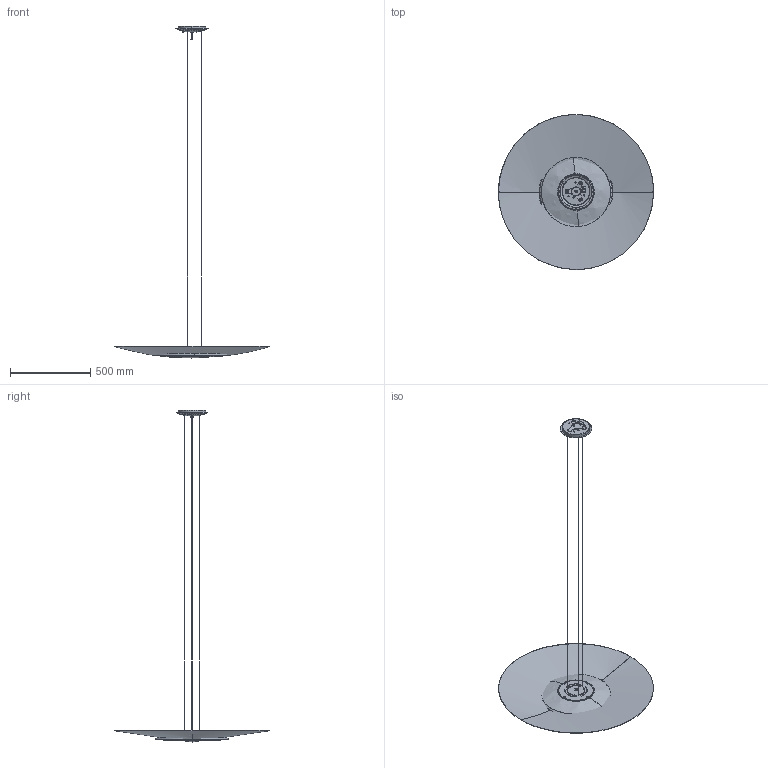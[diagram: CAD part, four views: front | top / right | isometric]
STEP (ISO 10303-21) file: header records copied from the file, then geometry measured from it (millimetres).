
FILE_DESCRIPTION(/* description */ (''),/* implementation_level */ '2;1');
FILE_NAME(/* name */ 'L093__~2',/* time_stamp */ '2024-07-09T16:09:32+02:00',/* author */ (''),/* organization */ (''),/* preprocessor_version */ 'ST-DEVELOPER v16.5',/* originating_system */ '',/* authorisation */ '');
FILE_SCHEMA (('AUTOMOTIVE_DESIGN'));
Length unit declared in the file: millimetre
Products named in the file (1): Document
Bounding box: 965.14 x 965.14 x 2066.44 mm (x, y, z)
Volume: 2155193.9 mm3; surface area: 2266719.8 mm2
Topology: 29 solids, 30 shells, 1429 faces, 3808 edges, 2328 vertices
Faces by surface type: bspline 837, plane 592
Entity records: 66433 total; most frequent: CARTESIAN_POINT 44010, ORIENTED_EDGE 7398, EDGE_CURVE 3700, VERTEX_POINT 2330, B_SPLINE_CURVE_WITH_KNOTS 2283, EDGE_LOOP 1581, ADVANCED_FACE 1429, FACE_OUTER_BOUND 1429
